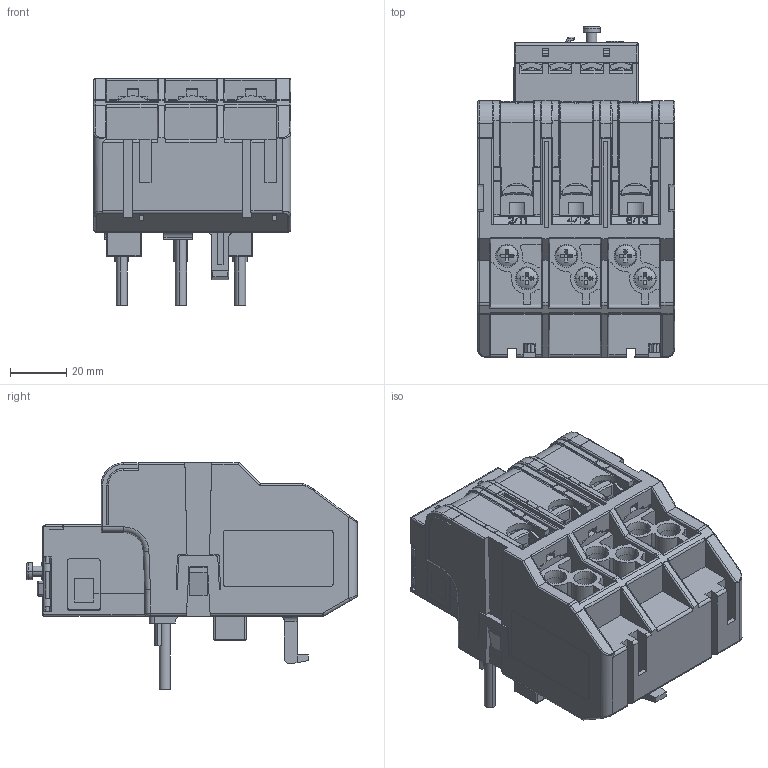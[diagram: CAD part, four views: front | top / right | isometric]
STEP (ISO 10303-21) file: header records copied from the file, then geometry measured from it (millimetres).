
FILE_DESCRIPTION (( 'STEP AP214' ), '1' );
FILE_NAME ('TGR1-95.STEP', '2025-12-22T07:55:22', ( '' ), ( '' ), 'SwSTEP 2.0', 'SolidWorks 2024', '' );
FILE_SCHEMA (( 'AUTOMOTIVE_DESIGN' ));
Length unit declared in the file: millimetre
Products named in the file (6): 2TZD_331_1006_SW0001_2.stp; 2TZD_331_1006_SW0001_3.stp; TGR1-95; 2TZD_331_1006_SW0001_1.stp; TGR1-95.stp; 2TZD_331_1006_SW0001_4.stp
Assembly tree (5 placements, depth 3):
  TGR1-95
    TGR1-95.stp
      2TZD_331_1006_SW0001_1.stp
      2TZD_331_1006_SW0001_2.stp
      2TZD_331_1006_SW0001_3.stp
      2TZD_331_1006_SW0001_4.stp
Bounding box: 70.1 x 117.45 x 80.5 mm (x, y, z)
Volume: 245375.6 mm3; surface area: 100808.7 mm2
Topology: 4 solids, 4 shells, 5125 faces, 14719 edges, 9583 vertices
Faces by surface type: plane 3966, cylinder 788, cone 129, bspline 107, torus 77, sphere 58
Entity records: 174415 total; most frequent: CARTESIAN_POINT 39870, ORIENTED_EDGE 29390, DIRECTION 25972, EDGE_CURVE 14695, LINE 12084, VECTOR 12084, VERTEX_POINT 9583, AXIS2_PLACEMENT_3D 6944
